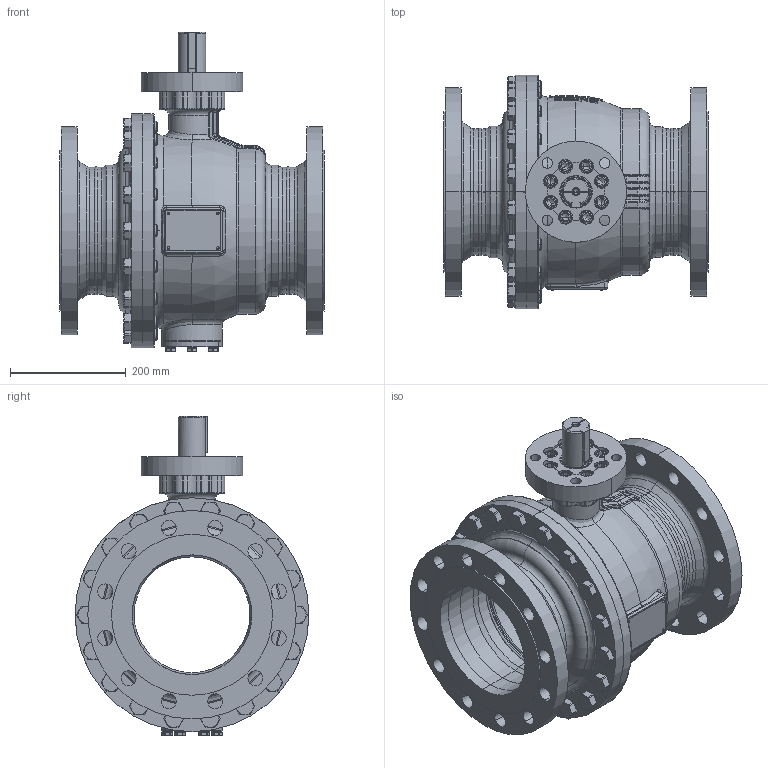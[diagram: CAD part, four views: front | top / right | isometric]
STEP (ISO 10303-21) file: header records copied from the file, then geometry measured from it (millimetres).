
FILE_DESCRIPTION((''),'2;1');
FILE_NAME('KHI-F_200_PN025-F14-P_SW0001','2026-02-05T12:42:26',('fischerkl'),('KLINGER'),'CREO PARAMETRIC BY PTC INC, 2023014','CREO PARAMETRIC BY PTC INC, 2023014','');
FILE_SCHEMA(('CONFIG_CONTROL_DESIGN'));
Products named in the file (1): KHI-F_200_PN025-F14-P_SW0001
Bounding box: 457 x 404 x 552.2 mm (x, y, z)
Volume: 13774229.7 mm3; surface area: 2316982.8 mm2
Topology: 1 solids, 4 shells, 2938 faces, 7364 edges, 4566 vertices
Faces by surface type: plane 1413, cylinder 724, cone 360, torus 303, bspline 108, sphere 30
Entity records: 121123 total; most frequent: CARTESIAN_POINT 51639, ORIENTED_EDGE 14676, DIRECTION 14416, EDGE_CURVE 7338, AXIS2_PLACEMENT_3D 5562, VERTEX_POINT 4566, VECTOR 3292, LINE 3292
